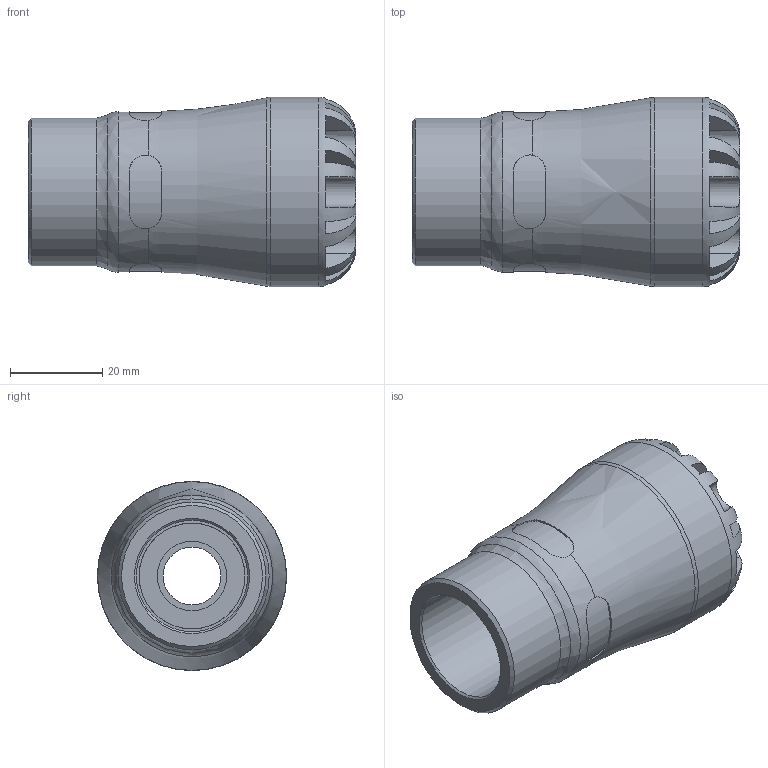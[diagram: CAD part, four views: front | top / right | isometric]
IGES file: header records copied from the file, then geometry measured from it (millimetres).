
Global section: file name: 1003C7015007.ipt; native system: Autodesk Inventor 2015; preprocessor: unknown; author: KIM; date: 20170122.102524; units: millimetre
Bounding box: 71 x 41 x 41 mm (x, y, z)
Volume: 52610.3 mm3; surface area: 14754.3 mm2
Topology: 1 solids, 1 shells, 106 faces, 282 edges, 182 vertices
Faces by surface type: plane 62, revolution 28, cylinder 15, cone 1
Full cylindrical faces by diameter (mm): 31.98 x1, 34.85 x1, 41 x1
